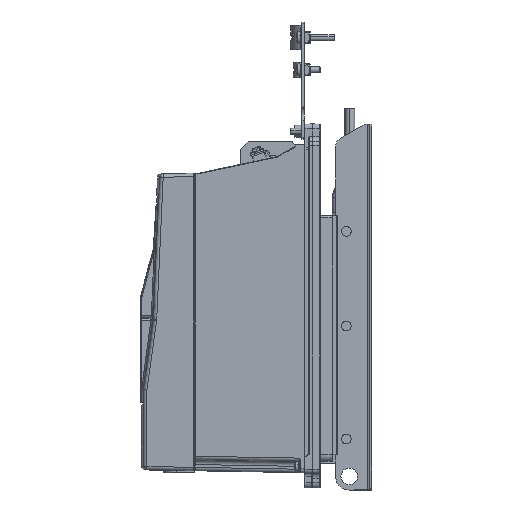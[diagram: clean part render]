
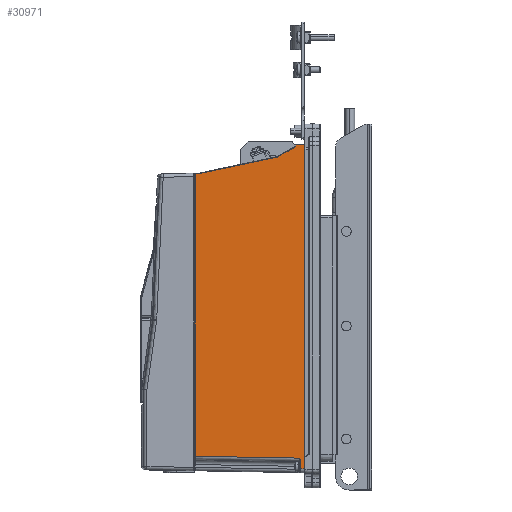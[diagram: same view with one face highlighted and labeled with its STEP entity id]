
A CAD part, left-side view. The second image highlights one B-rep face of the part: STEP entity #30971.
In plain terms, the highlighted planar face has unit normal (-1, 0.018, 0).
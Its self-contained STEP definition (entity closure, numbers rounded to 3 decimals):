
#321 = EDGE_CURVE ( 'NONE', #105271, #123066, #111427, .T. ) ;
#1166 = CARTESIAN_POINT ( 'NONE',  ( -108.887, 53.646, 136.585 ) ) ;
#1207 = LINE ( 'NONE', #63084, #113824 ) ;
#2795 = ORIENTED_EDGE ( 'NONE', *, *, #100707, .T. ) ;
#2893 = EDGE_CURVE ( 'NONE', #22975, #111136, #111084, .T. ) ;
#3415 = CARTESIAN_POINT ( 'NONE',  ( -110.654, -44.808, 164.1 ) ) ;
#9350 = EDGE_CURVE ( 'NONE', #10621, #22788, #1207, .T. ) ;
#10327 = CARTESIAN_POINT ( 'NONE',  ( -108.693, 64.434, -163.895 ) ) ;
#10621 = VERTEX_POINT ( 'NONE', #64153 ) ;
#11249 = EDGE_CURVE ( 'NONE', #22788, #123066, #45331, .T. ) ;
#12464 = PLANE ( 'NONE',  #97241 ) ;
#13897 = VERTEX_POINT ( 'NONE', #88939 ) ;
#13971 = CARTESIAN_POINT ( 'NONE',  ( -110.658, -44.991, 164.784 ) ) ;
#14771 = CARTESIAN_POINT ( 'NONE',  ( -110.745, -49.84, -156.69 ) ) ;
#15446 = CARTESIAN_POINT ( 'NONE',  ( -110.743, -49.76, -156.465 ) ) ;
#16316 = CARTESIAN_POINT ( 'NONE',  ( -108.926, 51.493, 137.024 ) ) ;
#18152 = ORIENTED_EDGE ( 'NONE', *, *, #74450, .T. ) ;
#20833 = DIRECTION ( 'NONE',  ( 0.018, 1., -0.017 ) ) ;
#22303 = CARTESIAN_POINT ( 'NONE',  ( -108.8, 58.5, 170. ) ) ;
#22719 = CARTESIAN_POINT ( 'NONE',  ( -110.747, -49.991, -157.617 ) ) ;
#22788 = VERTEX_POINT ( 'NONE', #44177 ) ;
#22975 = VERTEX_POINT ( 'NONE', #22719 ) ;
#23054 = VECTOR ( 'NONE', #112480, 1000. ) ;
#24807 = EDGE_CURVE ( 'NONE', #99662, #65913, #53648, .T. ) ;
#25007 = EDGE_CURVE ( 'NONE', #13897, #126779, #29613, .T. ) ;
#25617 = VECTOR ( 'NONE', #53185, 1000. ) ;
#25847 = CARTESIAN_POINT ( 'NONE',  ( -108.887, 53.646, 136.585 ) ) ;
#25999 = CARTESIAN_POINT ( 'NONE',  ( -110.734, -49.246, -155.402 ) ) ;
#26687 =( BOUNDED_CURVE ( )  B_SPLINE_CURVE ( 3, ( #49923, #89977, #80156, #112462 ),
 .UNSPECIFIED., .F., .T. ) 
 B_SPLINE_CURVE_WITH_KNOTS ( ( 4, 4 ),
 ( 4.398, 4.712 ),
 .UNSPECIFIED. ) 
 CURVE ( )  GEOMETRIC_REPRESENTATION_ITEM ( )  RATIONAL_B_SPLINE_CURVE ( ( 1., 0.992, 0.992, 1. ) ) 
 REPRESENTATION_ITEM ( '' )  );
#29248 = CARTESIAN_POINT ( 'NONE',  ( -108.891, 53.455, 136.607 ) ) ;
#29613 = LINE ( 'NONE', #16316, #31868 ) ;
#29853 = ORIENTED_EDGE ( 'NONE', *, *, #78536, .F. ) ;
#30971 = ADVANCED_FACE ( 'NONE', ( #86958 ), #12464, .F. ) ;
#31868 = VECTOR ( 'NONE', #49335, 1000. ) ;
#32144 = DIRECTION ( 'NONE',  ( 1., -0.018, 0. ) ) ;
#33865 = VERTEX_POINT ( 'NONE', #36221 ) ;
#34115 = CARTESIAN_POINT ( 'NONE',  ( -108.81, 57.916, 136.51 ) ) ;
#34417 = CARTESIAN_POINT ( 'NONE',  ( -110.73, -49.009, -154.992 ) ) ;
#36221 = CARTESIAN_POINT ( 'NONE',  ( -108.809, 58.009, 136.509 ) ) ;
#36753 = CARTESIAN_POINT ( 'NONE',  ( -110.649, -44.491, 163.917 ) ) ;
#37991 = CARTESIAN_POINT ( 'NONE',  ( -110.747, -49.991, -165.921 ) ) ;
#39494 = ORIENTED_EDGE ( 'NONE', *, *, #133546, .T. ) ;
#40324 = ORIENTED_EDGE ( 'NONE', *, *, #82568, .T. ) ;
#42627 = CARTESIAN_POINT ( 'NONE',  ( -108.891, 53.455, 136.607 ) ) ;
#43004 = VECTOR ( 'NONE', #85955, 1000. ) ;
#44177 = CARTESIAN_POINT ( 'NONE',  ( -110.658, -44.991, 166. ) ) ;
#45331 = LINE ( 'NONE', #133862, #55613 ) ;
#47071 = CARTESIAN_POINT ( 'NONE',  ( -110.73, -49.009, -154.992 ) ) ;
#48481 = DIRECTION ( 'NONE',  ( 0.016, 0.866, -0.5 ) ) ;
#48613 = ORIENTED_EDGE ( 'NONE', *, *, #24807, .T. ) ;
#48954 = DIRECTION ( 'NONE',  ( 0., 0., -1. ) ) ;
#49335 = DIRECTION ( 'NONE',  ( 0.018, 0.978, -0.208 ) ) ;
#49923 = CARTESIAN_POINT ( 'NONE',  ( -110.326, -26.545, 153.611 ) ) ;
#50564 = ORIENTED_EDGE ( 'NONE', *, *, #11249, .T. ) ;
#53185 = DIRECTION ( 'NONE',  ( -0.018, -1., -0.018 ) ) ;
#53648 = LINE ( 'NONE', #108413, #43004 ) ;
#53863 = CARTESIAN_POINT ( 'NONE',  ( -108.889, 53.518, 136.593 ) ) ;
#55613 = VECTOR ( 'NONE', #56569, 1000. ) ;
#55617 = LINE ( 'NONE', #62888, #98454 ) ;
#56569 = DIRECTION ( 'NONE',  ( 0., 0., -1. ) ) ;
#58147 = CARTESIAN_POINT ( 'NONE',  ( -110.819, -54., -166.001 ) ) ;
#61564 = ORIENTED_EDGE ( 'NONE', *, *, #101281, .F. ) ;
#62888 = CARTESIAN_POINT ( 'NONE',  ( -110.819, -54., 170. ) ) ;
#62977 = EDGE_CURVE ( 'NONE', #72181, #33865, #64373, .T. ) ;
#63084 = CARTESIAN_POINT ( 'NONE',  ( -108.8, 58.5, 166. ) ) ;
#63968 = ORIENTED_EDGE ( 'NONE', *, *, #62977, .T. ) ;
#63998 = ORIENTED_EDGE ( 'NONE', *, *, #9350, .T. ) ;
#64153 = CARTESIAN_POINT ( 'NONE',  ( -110.819, -54., 166. ) ) ;
#64373 = LINE ( 'NONE', #34115, #70524 ) ;
#65913 = VERTEX_POINT ( 'NONE', #34417 ) ;
#66799 = EDGE_LOOP ( 'NONE', ( #29853, #63998, #50564, #126193, #18152, #61564, #119894, #76536, #63968, #39494, #48613, #40324, #81092, #2795 ) ) ;
#70524 = VECTOR ( 'NONE', #20833, 1000. ) ;
#71631 = CARTESIAN_POINT ( 'NONE',  ( -110.33, -26.763, 153.681 ) ) ;
#72181 = VERTEX_POINT ( 'NONE', #25847 ) ;
#73381 = VECTOR ( 'NONE', #48481, 1000. ) ;
#74450 = EDGE_CURVE ( 'NONE', #105271, #138172, #135628, .T. ) ;
#76536 = ORIENTED_EDGE ( 'NONE', *, *, #136719, .F. ) ;
#76697 = DIRECTION ( 'NONE',  ( 0., 0., -1. ) ) ;
#78536 = EDGE_CURVE ( 'NONE', #10621, #87764, #55617, .T. ) ;
#80156 = CARTESIAN_POINT ( 'NONE',  ( -110.33, -26.746, 153.671 ) ) ;
#81092 = ORIENTED_EDGE ( 'NONE', *, *, #2893, .T. ) ;
#82568 = EDGE_CURVE ( 'NONE', #65913, #22975, #114883, .T. ) ;
#85955 = DIRECTION ( 'NONE',  ( -0.018, -1., -0.017 ) ) ;
#86958 = FACE_OUTER_BOUND ( 'NONE', #66799, .T. ) ;
#87764 = VERTEX_POINT ( 'NONE', #58147 ) ;
#88939 = CARTESIAN_POINT ( 'NONE',  ( -110.326, -26.545, 153.611 ) ) ;
#89977 = CARTESIAN_POINT ( 'NONE',  ( -110.328, -26.648, 153.633 ) ) ;
#92725 = CARTESIAN_POINT ( 'NONE',  ( -110.747, -49.991, -157.379 ) ) ;
#93210 = CARTESIAN_POINT ( 'NONE',  ( -108.809, 58.009, 170. ) ) ;
#96134 = DIRECTION ( 'NONE',  ( 0.018, 1., 0. ) ) ;
#97241 = AXIS2_PLACEMENT_3D ( 'NONE', #22303, #32144, #96134 ) ;
#98454 = VECTOR ( 'NONE', #76697, 1000. ) ;
#99662 = VERTEX_POINT ( 'NONE', #120658 ) ;
#100707 = EDGE_CURVE ( 'NONE', #111136, #87764, #107251, .T. ) ;
#101281 = EDGE_CURVE ( 'NONE', #13897, #138172, #26687, .T. ) ;
#103735 = LINE ( 'NONE', #93210, #123716 ) ;
#105271 = VERTEX_POINT ( 'NONE', #36753 ) ;
#107251 = LINE ( 'NONE', #10327, #25617 ) ;
#107939 = CARTESIAN_POINT ( 'NONE',  ( -108.888, 53.582, 136.586 ) ) ;
#107984 = DIRECTION ( 'NONE',  ( 0.018, 1., 0. ) ) ;
#108413 = CARTESIAN_POINT ( 'NONE',  ( -108.699, 64.136, -153.017 ) ) ;
#109517 = CARTESIAN_POINT ( 'NONE',  ( -110.649, -44.491, 163.917 ) ) ;
#111084 = LINE ( 'NONE', #37991, #23054 ) ;
#111136 = VERTEX_POINT ( 'NONE', #115723 ) ;
#111427 =( BOUNDED_CURVE ( )  B_SPLINE_CURVE ( 3, ( #109517, #3415, #134125, #13971 ),
 .UNSPECIFIED., .F., .T. ) 
 B_SPLINE_CURVE_WITH_KNOTS ( ( 4, 4 ),
 ( 4.712, 5.76 ),
 .UNSPECIFIED. ) 
 CURVE ( )  GEOMETRIC_REPRESENTATION_ITEM ( )  RATIONAL_B_SPLINE_CURVE ( ( 1., 0.911, 0.911, 1. ) ) 
 REPRESENTATION_ITEM ( '' )  );
#112290 = CARTESIAN_POINT ( 'NONE',  ( -110.332, -26.837, 153.723 ) ) ;
#112406 = CARTESIAN_POINT ( 'NONE',  ( -110.738, -49.482, -155.814 ) ) ;
#112462 = CARTESIAN_POINT ( 'NONE',  ( -110.332, -26.837, 153.723 ) ) ;
#112480 = DIRECTION ( 'NONE',  ( 0., 0., -1. ) ) ;
#113824 = VECTOR ( 'NONE', #107984, 1000. ) ;
#114655 = CARTESIAN_POINT ( 'NONE',  ( -110.658, -44.991, 164.784 ) ) ;
#114883 = B_SPLINE_CURVE_WITH_KNOTS ( 'NONE', 3,
 ( #47071, #25999, #112406, #15446, #14771, #134927, #92725, #125051 ),
 .UNSPECIFIED., .F., .F.,
 ( 4, 2, 2, 4 ),
 ( 0., 0.001, 0.002, 0.003 ),
 .UNSPECIFIED. ) ;
#115723 = CARTESIAN_POINT ( 'NONE',  ( -110.747, -49.991, -165.929 ) ) ;
#119894 = ORIENTED_EDGE ( 'NONE', *, *, #25007, .T. ) ;
#120658 = CARTESIAN_POINT ( 'NONE',  ( -108.809, 58.009, -153.124 ) ) ;
#123066 = VERTEX_POINT ( 'NONE', #114655 ) ;
#123716 = VECTOR ( 'NONE', #48954, 1000. ) ;
#125051 = CARTESIAN_POINT ( 'NONE',  ( -110.747, -49.991, -157.617 ) ) ;
#126193 = ORIENTED_EDGE ( 'NONE', *, *, #321, .F. ) ;
#126779 = VERTEX_POINT ( 'NONE', #29248 ) ;
#128454 =( BOUNDED_CURVE ( )  B_SPLINE_CURVE ( 3, ( #1166, #107939, #53863, #42627 ),
 .UNSPECIFIED., .F., .T. ) 
 B_SPLINE_CURVE_WITH_KNOTS ( ( 4, 4 ),
 ( 1.588, 1.78 ),
 .UNSPECIFIED. ) 
 CURVE ( )  GEOMETRIC_REPRESENTATION_ITEM ( )  RATIONAL_B_SPLINE_CURVE ( ( 1., 0.997, 0.997, 1. ) ) 
 REPRESENTATION_ITEM ( '' )  );
#133546 = EDGE_CURVE ( 'NONE', #33865, #99662, #103735, .T. ) ;
#133862 = CARTESIAN_POINT ( 'NONE',  ( -110.658, -44.991, 170. ) ) ;
#134125 = CARTESIAN_POINT ( 'NONE',  ( -110.658, -44.991, 164.418 ) ) ;
#134927 = CARTESIAN_POINT ( 'NONE',  ( -110.747, -49.956, -157.147 ) ) ;
#135628 = LINE ( 'NONE', #71631, #73381 ) ;
#136719 = EDGE_CURVE ( 'NONE', #72181, #126779, #128454, .T. ) ;
#138172 = VERTEX_POINT ( 'NONE', #112290 ) ;
